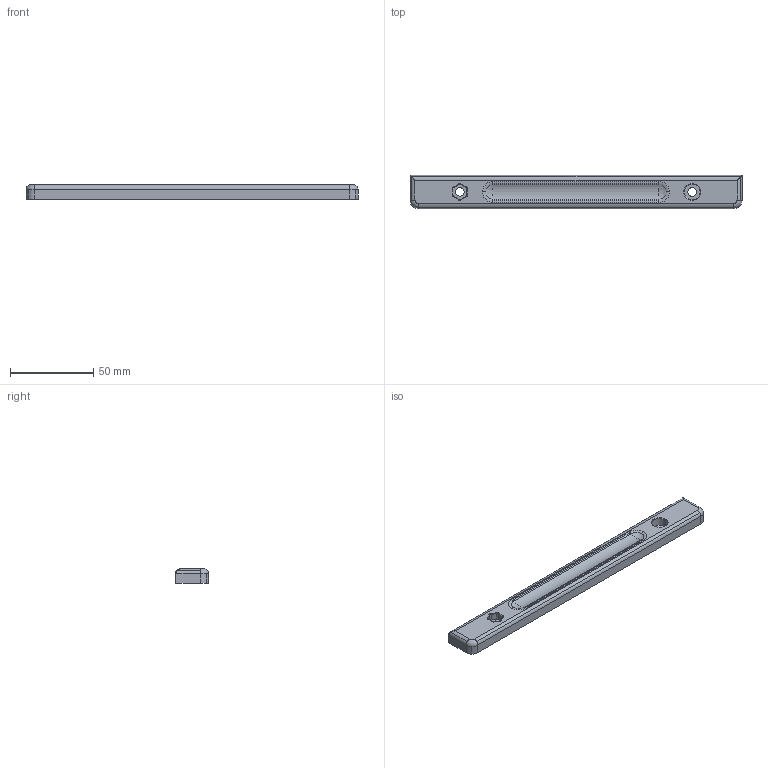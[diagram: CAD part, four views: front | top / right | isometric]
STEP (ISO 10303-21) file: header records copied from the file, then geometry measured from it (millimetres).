
FILE_DESCRIPTION(('STEP AP214'),'1');
FILE_NAME('Handlebar_V5.stp','2019-04-06T12:58:20',(' '),(' '),'Spatial InterOp 3D',' ',' ');
FILE_SCHEMA(('AUTOMOTIVE_DESIGN { 1 0 10303 214 1 1 1 1 }'));
Length unit declared in the file: metre
Products named in the file (1): 1
Bounding box: 200 x 20 x 8.65 mm (x, y, z)
Volume: 31716.5 mm3; surface area: 11550.4 mm2
Topology: 1 solids, 1 shells, 81 faces, 202 edges, 124 vertices
Faces by surface type: cylinder 37, plane 20, cone 14, torus 6, bspline 2, sphere 2
Entity records: 3449 total; most frequent: CARTESIAN_POINT 788, DIRECTION 454, ORIENTED_EDGE 400, EDGE_CURVE 200, AXIS2_PLACEMENT_3D 186, VERTEX_POINT 124, CIRCLE 98, EDGE_LOOP 88
